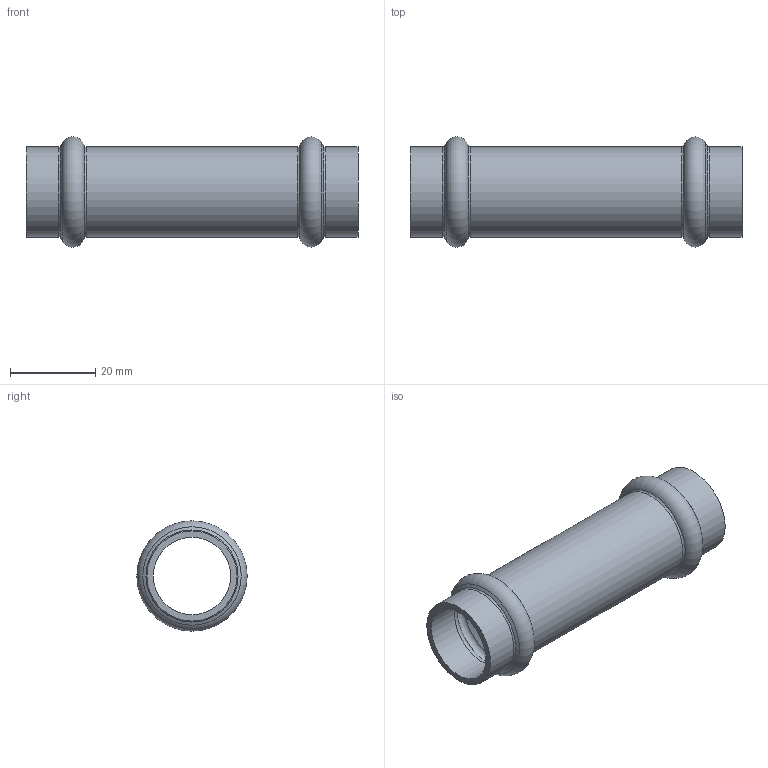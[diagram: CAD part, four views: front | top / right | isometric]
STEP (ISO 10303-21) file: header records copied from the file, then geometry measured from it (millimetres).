
FILE_DESCRIPTION((''),'2;1');
FILE_NAME('G:\Technics\CAD\Bauteile\018\69270S18(0).stp','2008-02-14T14:50:30',('herberg'),(''),'Autodesk Inventor 2008','Autodesk Inventor 2008','');
FILE_SCHEMA(('AUTOMOTIVE_DESIGN { 1 0 10303 214 1 1 1 1 }'));
Length unit declared in the file: millimetre
Products named in the file (1): 69270S18(0)
Bounding box: 78 x 25.9 x 25.9 mm (x, y, z)
Volume: 7816.7 mm3; surface area: 10606.7 mm2
Topology: 1 solids, 1 shells, 24 faces, 48 edges, 26 vertices
Faces by surface type: bspline 8, cylinder 6, torus 4, cone 4, plane 2
Full cylindrical faces by diameter (mm): 18.15 x3, 21.15 x3
Entity records: 834 total; most frequent: CARTESIAN_POINT 425, DIRECTION 82, ORIENTED_EDGE 48, EDGE_LOOP 48, AXIS2_PLACEMENT_3D 41, VERTEX_POINT 24, CIRCLE 24, EDGE_CURVE 24
